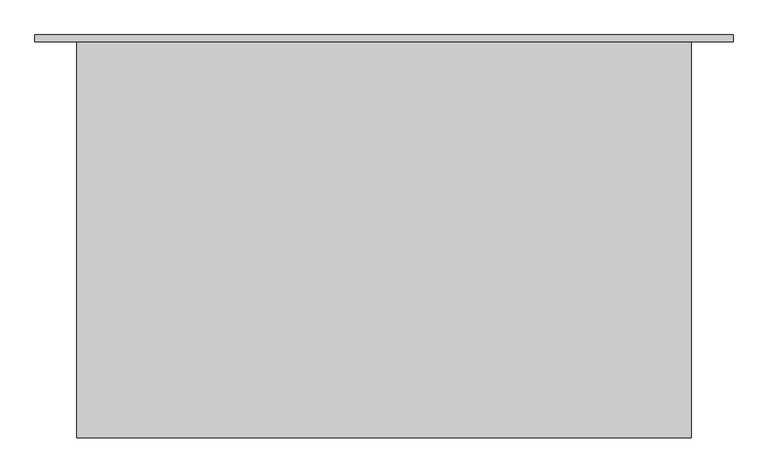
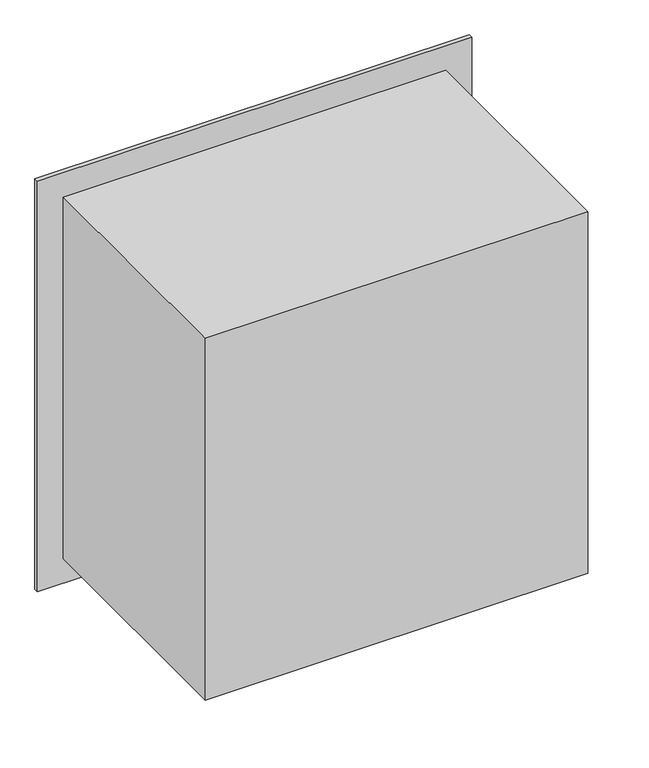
"""IFC4 building model written with IfcOpenShell, lengths in millimetres: proxy geometry, 900x900x600 Manway Riser."""

from ifc_helpers import new_model, si_unit, origin, place, context, project, spatial, faceted_brep, source, transform, mapped, element, save


def generic_models_47c2befc(model_context):
    return source(origin(), model_context, "Body", "Brep", [
        faceted_brep([(458.0, -600.0, -458.0), (458.0, -600.0, 458.0), (-458.0, -600.0, 458.0), (-458.0, -600.0, -458.0), (520.0, 0.0, -520.0), (-520.0, 0.0, -520.0), (-520.0, 0.0, 520.0), (520.0, 0.0, 520.0), (-458.0, -10.0, -458.0), (458.0, -10.0, -458.0), (-520.0, -10.0, -520.0), (520.0, -10.0, -520.0), (520.0, -10.0, 520.0), (-520.0, -10.0, 520.0), (-458.0, -10.0, 458.0), (458.0, -10.0, 458.0)], [[[0, 1, 2, 3]], [[4, 5, 6, 7]], [[0, 3, 8, 9]], [[10, 11, 12, 13], [9, 8, 14, 15]], [[3, 2, 14, 8]], [[2, 1, 15, 14]], [[0, 9, 15, 1]], [[5, 4, 11, 10]], [[6, 5, 10, 13]], [[7, 6, 13, 12]], [[4, 7, 12, 11]]]),
    ])


if __name__ == "__main__":
    model = new_model("IFC4")
    model_context = context("Model", 3, world=origin())
    ifc_project = project(units=[si_unit("LENGTHUNIT", "METRE", prefix="MILLI")], contexts=[model_context])
    site = spatial("IfcSite", under=ifc_project)
    building = spatial("IfcBuilding", under=site)
    placement = place(None, origin())
    generic_models_shape = generic_models_47c2befc(model_context)
    element("IfcBuildingElementProxy", 1, Name="900x900x600 Manway Riser", ObjectType="900x900x600 Manway Riser", at=placement, inside=building, context=model_context, shape_type="MappedRepresentation", body=[
        mapped(generic_models_shape, transform((0.0, 0.0, 0.0), x_axis=(1.0, 0.0, 0.0), y_axis=(0.0, 1.0, 0.0), z_axis=(0.0, 0.0, 1.0))),
    ])
    save(model, "model.ifc")
